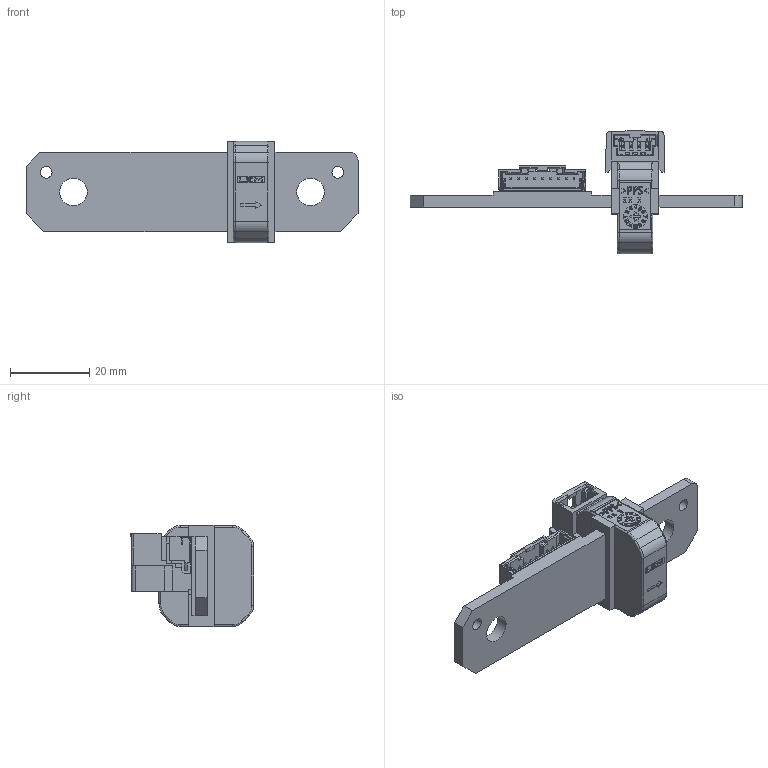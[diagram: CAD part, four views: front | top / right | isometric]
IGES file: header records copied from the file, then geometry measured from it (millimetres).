
Start section: Elysium IGES Interface
Global section: file name: C:\Users\xiw\Desktop\HSU 3D\BBOX\HSU04 BBOX\HSU04 BLACKBOX\HSU04 BBOX.igs; native system: Creo Elements/Direct Modeling 20.3D  14-Nov-2022; preprocessor: Creo Element/Direct IGES_3D V2.2; author: Unknown; organization: Unknown; date: 20250429.163127; units: millimetre
Bounding box: 84 x 31.24 x 25.6 mm (x, y, z)
Volume: 11962 mm3; surface area: 7642.1 mm2
Topology: 1 solids, 16 shells, 1285 faces, 3461 edges, 2264 vertices
Faces by surface type: bspline 1285
